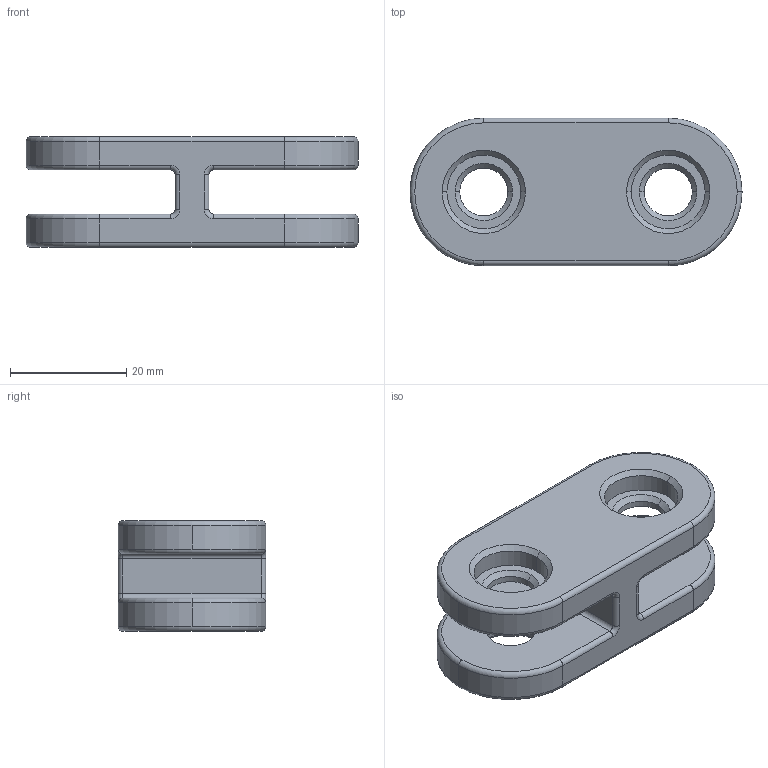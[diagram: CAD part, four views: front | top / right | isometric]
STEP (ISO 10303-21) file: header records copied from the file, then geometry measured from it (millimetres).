
FILE_DESCRIPTION (( 'STEP AP203' ), '1' );
FILE_NAME ('Part1.STEP', '2014-09-11T21:06:59', ( '' ), ( '' ), 'SwSTEP 2.0', 'SolidWorks 2014', '' );
FILE_SCHEMA (( 'CONFIG_CONTROL_DESIGN' ));
Length unit declared in the file: inch
Products named in the file (1): Part1
Bounding box: 57.15 x 25.4 x 19.05 mm (x, y, z)
Volume: 13643.1 mm3; surface area: 7092.5 mm2
Topology: 1 solids, 1 shells, 92 faces, 209 edges, 123 vertices
Faces by surface type: cylinder 42, torus 20, cone 16, plane 14
Entity records: 2683 total; most frequent: DIRECTION 522, CARTESIAN_POINT 425, ORIENTED_EDGE 418, AXIS2_PLACEMENT_3D 220, EDGE_CURVE 209, CIRCLE 127, VERTEX_POINT 123, EDGE_LOOP 104
